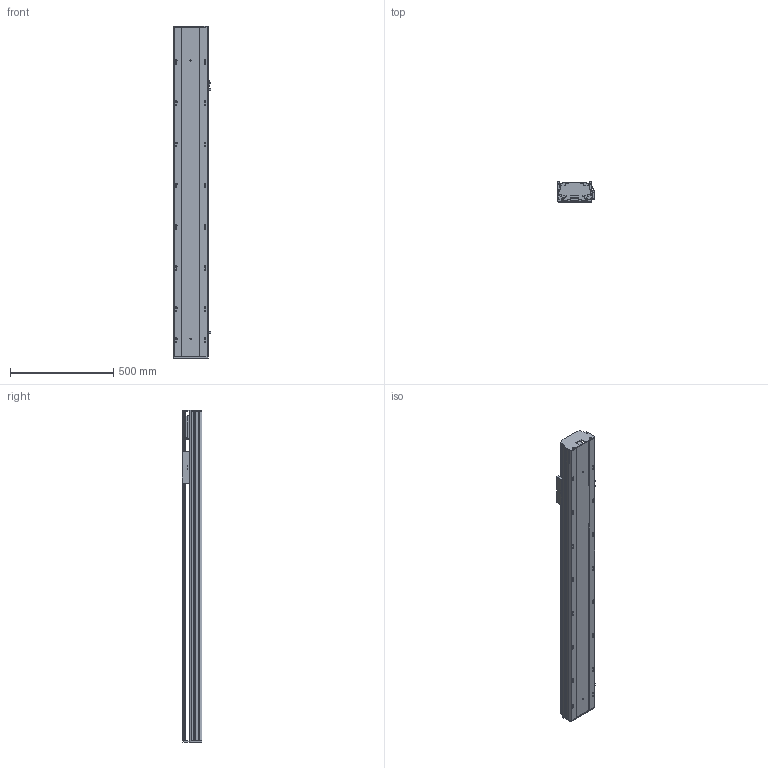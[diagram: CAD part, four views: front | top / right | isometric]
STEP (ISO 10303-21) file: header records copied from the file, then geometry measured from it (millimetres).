
FILE_DESCRIPTION (( 'STEP AP203' ), '1' );
FILE_NAME ('Y170-D10-S1200-M-P400W.STEP', '2020-01-22T13:05:38', ( '微软用户' ), ( '微软中国' ), 'SwSTEP 2.0', 'SolidWorks 2017', '' );
FILE_SCHEMA (( 'CONFIG_CONTROL_DESIGN' ));
Length unit declared in the file: millimetre
Products named in the file (10): Y170-D10-S1200-M-P400W; Y100-135俋离換覜ん; 135-盓傅釱-FK15; Y170耜裔--準---; Y170--雄赽釱-梓--; 170--掛极-M; Y170耜裔--準---M; san松下电机400不带刹车----; Y170-陔遴奻裔-M; YD-Y100-135-新外置传感挡片(通用）
Assembly tree (11 placements, depth 2):
  Y170-D10-S1200-M-P400W
    YD-Y100-135-新外置传感挡片(通用）
    Y100-135俋离換覜ん  x3
    135-盓傅釱-FK15
    Y170耜裔--準---
    Y170--雄赽釱-梓--
    170--掛极-M
    Y170耜裔--準---M
    san松下电机400不带刹车----
    Y170-陔遴奻裔-M
Bounding box: 183.5 x 97 x 1611 mm (x, y, z)
Volume: 6784979.1 mm3; surface area: 2423773 mm2
Topology: 11 solids, 11 shells, 809 faces, 2324 edges, 1540 vertices
Faces by surface type: cylinder 423, plane 384, torus 2
Entity records: 26540 total; most frequent: CARTESIAN_POINT 4833, DIRECTION 4382, ORIENTED_EDGE 4312, EDGE_CURVE 2156, AXIS2_PLACEMENT_3D 1561, VERTEX_POINT 1428, VECTOR 1260, LINE 1260
